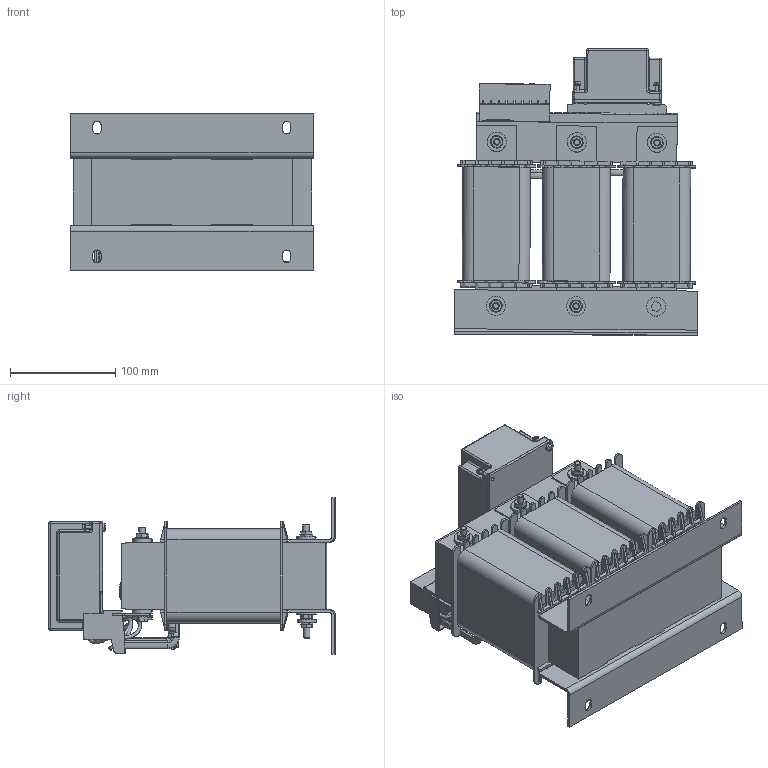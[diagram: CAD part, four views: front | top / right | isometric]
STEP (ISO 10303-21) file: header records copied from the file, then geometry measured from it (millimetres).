
FILE_DESCRIPTION((''),'2;1');
FILE_NAME('K:\PQ\Projects\000062 STEFFI Sinewave filter range\STEFFI FN5040\FN5040-38-84(K)(810299)\70_Realisation_Rev 0\702_MechanicalDesign\3D\FN5040-38-84 ass .stp','2012-12-21T16:40:45',('jingli.yang'),(''),'Autodesk Inventor 2010','Autodesk Inventor 2010','');
FILE_SCHEMA(('AUTOMOTIVE_DESIGN { 1 0 10303 214 1 1 1 1 }'));
Length unit declared in the file: millimetre
Products named in the file (1): 零件1
Bounding box: 230.21 x 272.07 x 148 mm (x, y, z)
Volume: 3056538.5 mm3; surface area: 611437.9 mm2
Topology: 5 solids, 8 shells, 2297 faces, 6115 edges, 3866 vertices
Faces by surface type: plane 1103, bspline 737, cylinder 325, cone 82, sphere 26, torus 24
Full cylindrical faces by diameter (mm): 3 x6, 3.2 x4, 4.462 x4, 5 x6, 6 x22, 6.4 x5, 8.4 x3, 9 x1, 10 x1, 11 x6, 18 x1
Entity records: 97146 total; most frequent: CARTESIAN_POINT 41923, ORIENTED_EDGE 11642, DIRECTION 9858, EDGE_CURVE 5824, VECTOR 4032, LINE 4032, VERTEX_POINT 3766, AXIS2_PLACEMENT_3D 2913
